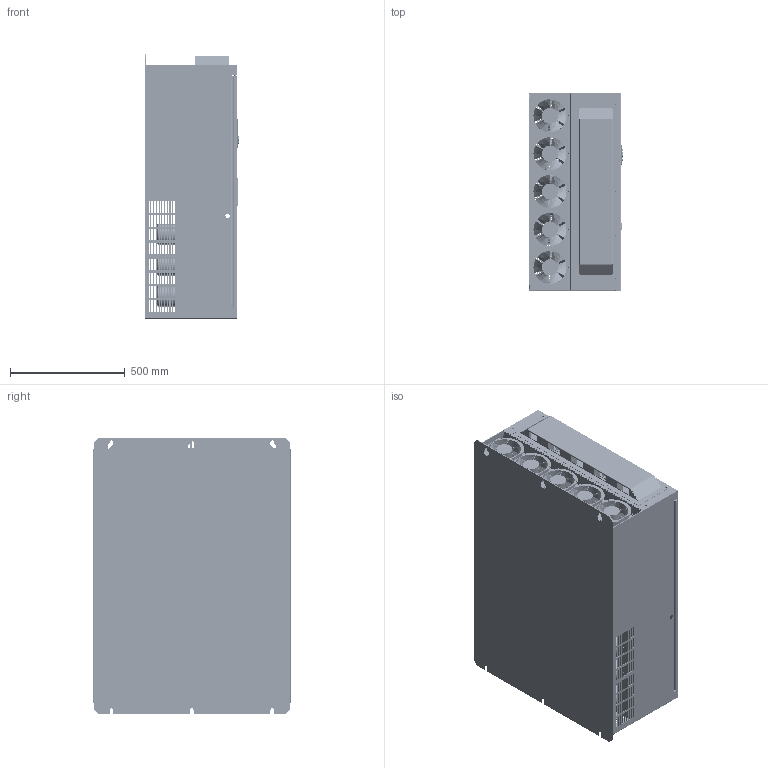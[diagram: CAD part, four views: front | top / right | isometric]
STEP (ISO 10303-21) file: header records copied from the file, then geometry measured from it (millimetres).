
FILE_DESCRIPTION(('STEP AP203'), '1');
FILE_NAME('栖闉罻 _ LCI-G355_P400-4', '', ('UNSPECIFIED'), ('UNSPECIFIED'), 'C3D Converter', 'C3D Toolkit', '');
FILE_SCHEMA(('CONFIG_CONTROL_DESIGN'));
Length unit declared in the file: millimetre
Products named in the file (85): LCI-G355_P400-4; LCI-G355; LCI-G355-01; LCI-KP-B; Панель управления; Панель управленния; LCI-MF-B
Assembly tree (249 placements, depth 3):
  LCI-G355_P400-4
    LCI-G355
    LCI-G355
    LCI-G355
    LCI-G355
    LCI-G355
    LCI-G355  x3
    LCI-G355
    LCI-G355  x15
    LCI-G355  x3
    LCI-G355  x3
    LCI-G355  x3
    LCI-G355  x9
    LCI-G355  x18
    LCI-G355  x18
    LCI-G355  x7
    LCI-G355  x2
    LCI-G355  x5
    LCI-G355  x2
    LCI-G355
    LCI-G355  x2
    LCI-G355  x3
    LCI-G355
    LCI-G355
    LCI-G355
    LCI-G355
    LCI-G355
    LCI-G355
    LCI-G355
    LCI-G355
    LCI-G355
    LCI-G355
    LCI-G355
    LCI-G355
    LCI-G355
    LCI-G355-01
    LCI-G355
    LCI-G355
    LCI-G355-01
    LCI-G355-01
    LCI-G355  x18
    LCI-G355
    LCI-G355
    LCI-G355  x9
    LCI-G355  x2
    LCI-G355
    LCI-G355
    LCI-G355
    LCI-G355
    LCI-G355
    LCI-G355
    LCI-G355
    LCI-G355
    LCI-G355
    LCI-G355
    LCI-G355
    LCI-G355
    LCI-G355
    LCI-G355
    LCI-G355  x3
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Bounding box: 411.1 x 861.9 x 1202 mm (x, y, z)
Volume: 54537328.4 mm3; surface area: 29179757.1 mm2
Topology: 253 solids, 253 shells, 20991 faces, 55851 edges, 36354 vertices
Faces by surface type: plane 14262, cylinder 3254, extrusion 3046, bspline 182, torus 161, cone 61, sphere 25
Full cylindrical faces by diameter (mm): 1 x2, 1.2 x32, 1.5 x2, 2.4 x4, 2.5 x81, 2.6 x8, 3 x16, 3.4 x8, 3.5 x114, 3.6 x7, 3.8 x26, 4 x15, 4.4 x40, 4.5 x159, 4.6 x6, 4.9 x8, 5 x11, 5.2 x10, 5.3 x21, 5.4 x6, 5.5 x243, 5.7 x6, 6 x56, 6.2 x4, 6.5 x30, 6.7 x3, 7 x188, 7.5 x20, 8 x4, 8.5 x6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
Entity records: 348009 total; most frequent: CARTESIAN_POINT 65787, ORIENTED_EDGE 52690, DIRECTION 48811, EDGE_CURVE 26345, VECTOR 21603, LINE 20865, VERTEX_POINT 17554, EDGE_LOOP 14327
